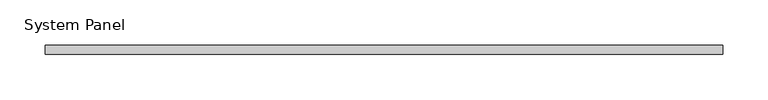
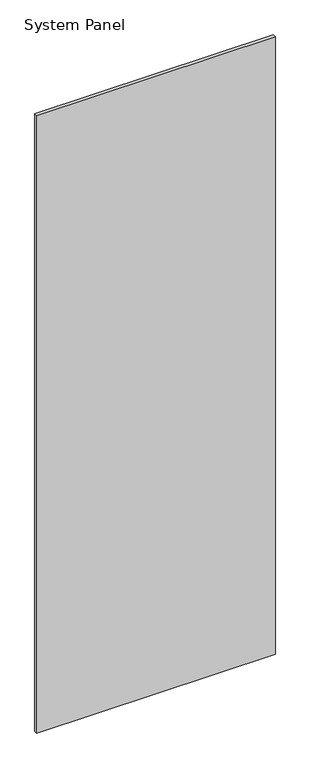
"""IFC4 building model written with IfcOpenShell, lengths in millimetres: plate geometry, System Panel : стекло_смещение_0."""

from ifc_helpers import new_model, si_unit, origin, origin_with_axes, place, context, project, spatial, polyline, outline, extrude, source, transform, mapped, element, save


def system_panel_c9f8fef1(model_context):
    return source(origin(), model_context, "Body", "SweptSolid", [
        extrude(outline(polyline([(375.0, -5.0), (-375.0, -5.0), (-375.0, 5.0), (375.0, 5.0), (375.0, -5.0)])), origin_with_axes(), (0.0, 0.0, 1.0), 2050.0),
    ])


if __name__ == "__main__":
    model = new_model("IFC4")
    model_context = context("Model", 3, world=origin())
    ifc_project = project(units=[si_unit("LENGTHUNIT", "METRE", prefix="MILLI")], contexts=[model_context])
    site = spatial("IfcSite", under=ifc_project)
    building = spatial("IfcBuilding", under=site)
    placement = place(None, origin())
    system_panel_shape = system_panel_c9f8fef1(model_context)
    element("IfcPlate", 1, ObjectType="System Panel : стекло_смещение_0", at=placement, inside=building, context=model_context, shape_type="MappedRepresentation", body=[
        mapped(system_panel_shape, transform((0.0, 0.0, 0.0), x_axis=(1.0, 0.0, 0.0), y_axis=(0.0, 1.0, 0.0), z_axis=(0.0, 0.0, 1.0))),
    ])
    save(model, "model.ifc")
